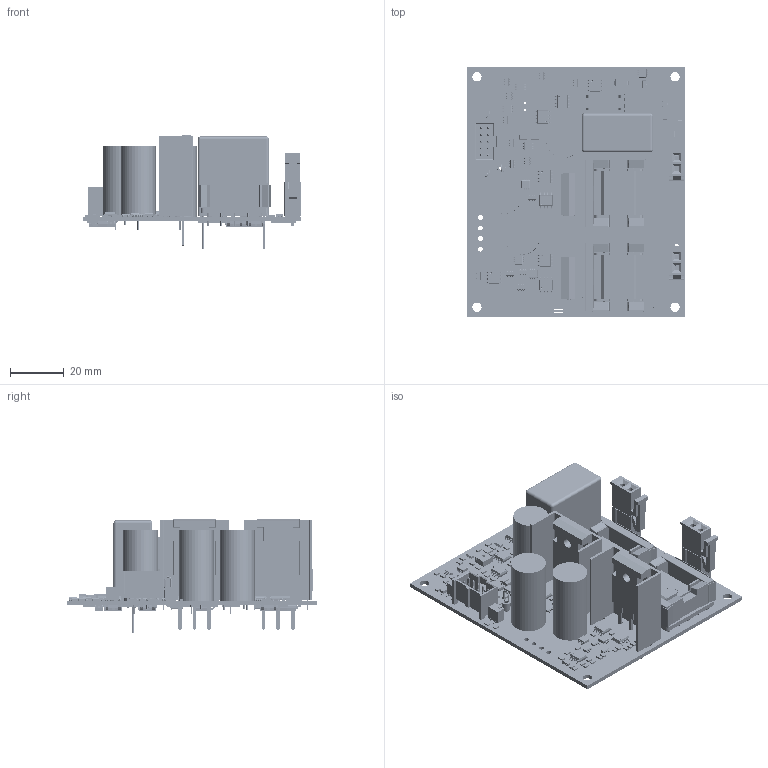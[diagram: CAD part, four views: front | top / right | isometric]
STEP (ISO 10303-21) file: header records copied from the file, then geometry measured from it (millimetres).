
FILE_DESCRIPTION(('Open CASCADE Model'),'2;1');
FILE_NAME('Open CASCADE Shape Model','2022-12-29T11:28:28',('Author'),( 'Open CASCADE'),'Open CASCADE STEP processor 7.5','Open CASCADE 7.5' ,'Unknown');
FILE_SCHEMA(('AUTOMOTIVE_DESIGN { 1 0 10303 214 1 1 1 1 }'));
Length unit declared in the file: millimetre
Products named in the file (249): PCB; Board; Open CASCADE STEP translator 7.5 1.1.1; R76; R-0805; R75; R74; R73; R72; R71; R70; R69; R68; R67; R66; Q6; CircuitWorks-SOT-23; DD20; User Library-SSOP-8-1; D3; SOD123; C61; C60; User Library-CAPC3216X___; BLOCK; User Library-FYLS-1206; C59; R65; User Library-res2512; User Library-res2512_pad_2512___; User Library-res2512_res2512_body___; R64; R59; R58; R57; C51; C49; C48; C47; C46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
Assembly tree (430 placements, depth 4):
  PCB
    Board
      Open CASCADE STEP translator 7.5 1.1.1
    R76
      R-0805
    R75
      R-0805
    R74
      R-0805
    R73
      R-0805
    R72
      R-0805
    R71
      R-0805
    R70
      R-0805
    R69
      R-0805
    R68
      R-0805
    R67
      R-0805
    R66
      R-0805
    Q6
      CircuitWorks-SOT-23
    DD20
      User Library-SSOP-8-1
    D3
      SOD123
    C61
      R-0805
    C60
      User Library-CAPC3216X___
    BLOCK
      User Library-FYLS-1206
    C59
      User Library-CAPC3216X___
    R65
      User Library-res2512
        User Library-res2512_pad_2512___
        User Library-res2512_res2512_body___
    R64
      R-0805
    R59
      R-0805
    R58
      R-0805
    R57
      User Library-res2512
        User Library-res2512_pad_2512___
        User Library-res2512_res2512_body___
    C51
      R-0805
    C49
      R-0805
    C48
      R-0805
    C47
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Bounding box: 81.28 x 93.34 x 42.63 mm (x, y, z)
Volume: 53363.5 mm3; surface area: 56889.6 mm2
Topology: 662 solids, 662 shells, 20394 faces, 52343 edges, 34307 vertices
Faces by surface type: plane 12501, bspline 6033, cylinder 1784, sphere 28, torus 24, cone 24
Full cylindrical faces by diameter (mm): 0.6 x6, 0.9 x2, 1.2 x11, 1.4 x8, 1.5 x22, 1.6 x8, 1.7 x2, 1.8 x4, 3.4 x4, 13 x3
Entity records: 129054 total; most frequent: CARTESIAN_POINT 39401, ORIENTED_EDGE 16302, DIRECTION 14141, EDGE_CURVE 8151, LINE 5743, VECTOR 5743, VERTEX_POINT 5289, AXIS2_PLACEMENT_3D 4199
